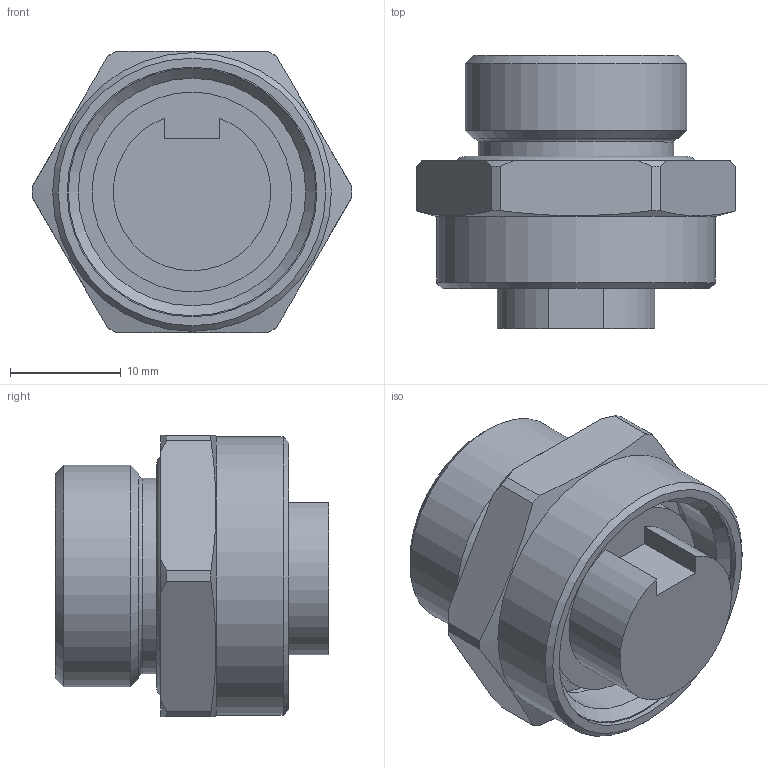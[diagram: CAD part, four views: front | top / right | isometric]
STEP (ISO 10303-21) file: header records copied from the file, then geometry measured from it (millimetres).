
FILE_DESCRIPTION(/* description */ (''),/* implementation_level */ '2;1');
FILE_NAME(/* name */ 'L:\CAD Inventor\Workspace\Catalogs\CATALOG-TURCK CONNECTORS\RKF-A-M20.stp',/* time_stamp */ '2022-03-01T10:08:17-06:00',/* author */ ('RSwans'),/* organization */ (''),/* preprocessor_version */ 'ST-DEVELOPER v16.5',/* originating_system */ 'Autodesk Inventor 2017',/* authorisation */ '');
FILE_SCHEMA (('AUTOMOTIVE_DESIGN { 1 0 10303 214 3 1 1 }'));
Length unit declared in the file: millimetre
Products named in the file (1): Part2
Bounding box: 28.8 x 24.6 x 25.4 mm (x, y, z)
Volume: 7445.4 mm3; surface area: 5428.7 mm2
Topology: 1 solids, 2 shells, 91 faces, 201 edges, 128 vertices
Faces by surface type: plane 45, cylinder 26, cone 14, torus 6
Full cylindrical faces by diameter (mm): 13 x3, 14.2 x1, 17.6 x1, 18 x1, 18.5 x1, 20 x1, 20.5 x1, 22.5 x2, 23 x1, 25.1 x1
Entity records: 2453 total; most frequent: DIRECTION 428, CARTESIAN_POINT 426, ORIENTED_EDGE 344, AXIS2_PLACEMENT_3D 182, EDGE_CURVE 172, EDGE_LOOP 132, VERTEX_POINT 126, FACE_OUTER_BOUND 91
